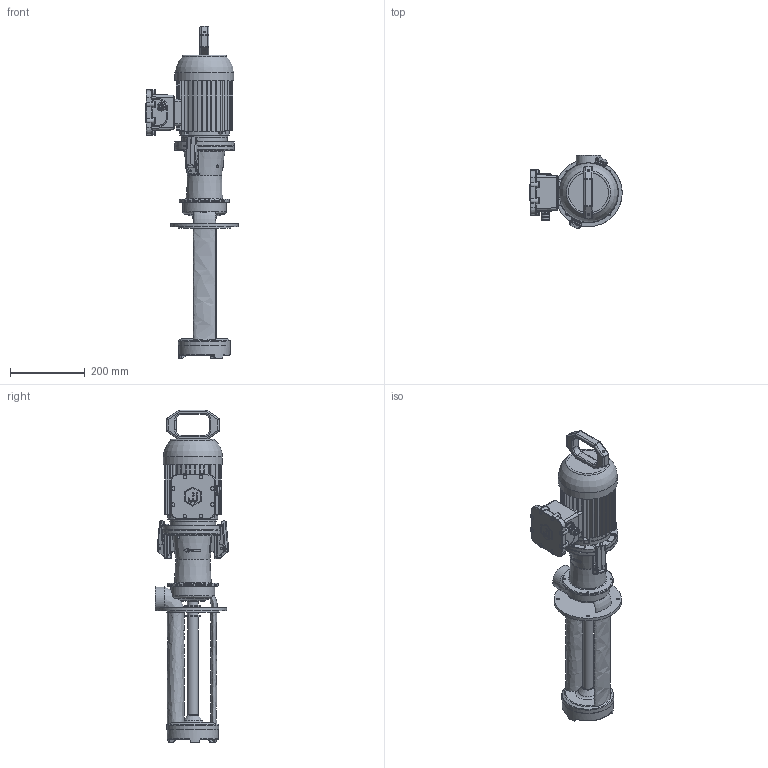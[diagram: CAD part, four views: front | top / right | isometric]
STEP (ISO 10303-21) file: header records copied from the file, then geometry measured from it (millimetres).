
FILE_DESCRIPTION(/* description */ ('Unknown'),/* implementation_level */ '2;1');
FILE_NAME(/* name */ 'EP EX 350-350',/* time_stamp */ '2025-06-02T13:10:09+03:00',/* author */ ('Unknown'),/* organization */ ('Unknown'),/* preprocessor_version */ 'ST-DEVELOPER v16.7',/* originating_system */ 'DEX',/* authorisation */ $);
FILE_SCHEMA (('AUTOMOTIVE_DESIGN {1 0 10303 214 3 1 1}'));
Length unit declared in the file: millimetre
Products named in the file (1): EP EX 350-350
Bounding box: 246.5 x 195.43 x 886.45 mm (x, y, z)
Volume: 8045236.8 mm3; surface area: 753579.5 mm2
Topology: 1 solids, 22 shells, 2297 faces, 6059 edges, 3780 vertices
Faces by surface type: cylinder 802, plane 730, bspline 404, torus 201, cone 113, sphere 47
Full cylindrical faces by diameter (mm): 3 x12, 3.242 x16, 4 x10, 4.134 x24, 4.9 x4, 5 x90, 5.3 x4, 5.5 x2, 5.7 x8, 6 x8, 7 x8, 8 x3, 9.5 x8, 12 x1, 13 x2, 13.962 x1, 16 x1, 18.348 x1, 18.376 x5, 19 x1, 20 x2, 21.8 x2, 28 x1, 29 x3, 30 x1, 42 x3, 44 x1, 48 x1, 62 x1, 73 x1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
Entity records: 109777 total; most frequent: CARTESIAN_POINT 43445, ORIENTED_EDGE 10866, DIRECTION 9982, EDGE_CURVE 5433, AXIS2_PLACEMENT_3D 4017, VERTEX_POINT 3586, FACE_BOUND 2697, EDGE_LOOP 2689
